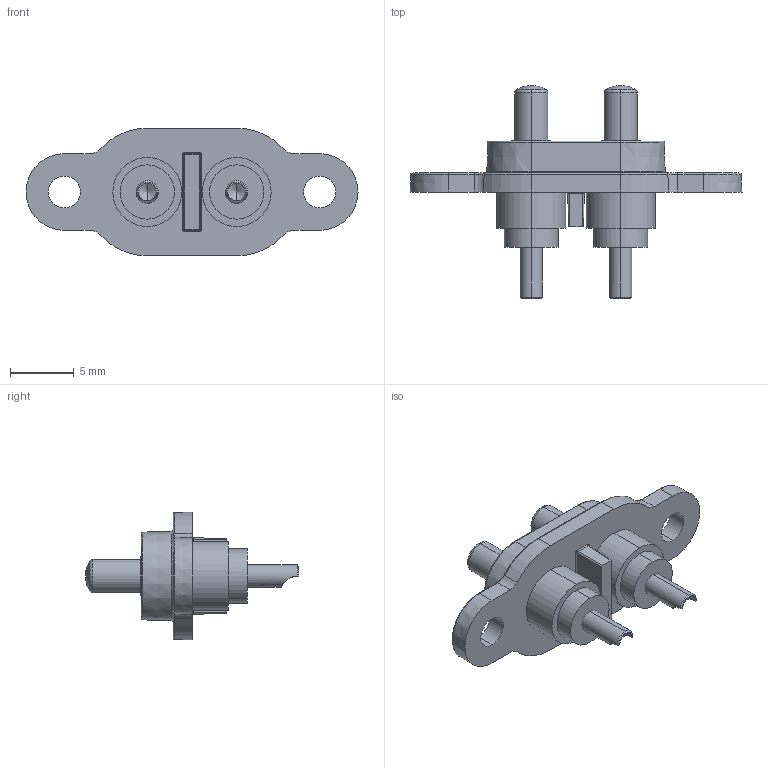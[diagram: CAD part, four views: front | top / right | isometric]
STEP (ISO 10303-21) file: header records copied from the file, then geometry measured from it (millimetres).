
FILE_DESCRIPTION (( 'STEP AP214' ), '1' );
FILE_NAME ('SD-POWER-2-SC-PRO.STEP', '2021-08-02T11:10:51', ( '' ), ( '' ), 'SwSTEP 2.0', 'SolidWorks 2021', '' );
FILE_SCHEMA (( 'AUTOMOTIVE_DESIGN' ));
Length unit declared in the file: millimetre
Products named in the file (3): body_2 hole_1; SD-POWER-2-SC-PRO; HD-LPD11JXT-SP
Assembly tree (3 placements, depth 2):
  SD-POWER-2-SC-PRO
    body_2 hole_1
    HD-LPD11JXT-SP  x2
Bounding box: 26 x 16.69 x 10 mm (x, y, z)
Volume: 725.7 mm3; surface area: 1095.2 mm2
Topology: 3 solids, 3 shells, 157 faces, 361 edges, 218 vertices
Faces by surface type: cylinder 60, cone 40, plane 28, torus 23, bspline 4, sphere 2
Entity records: 4992 total; most frequent: CARTESIAN_POINT 807, DIRECTION 637, ORIENTED_EDGE 548, EDGE_CURVE 274, AXIS2_PLACEMENT_3D 264, VERTEX_POINT 166, CIRCLE 143, EDGE_LOOP 134
